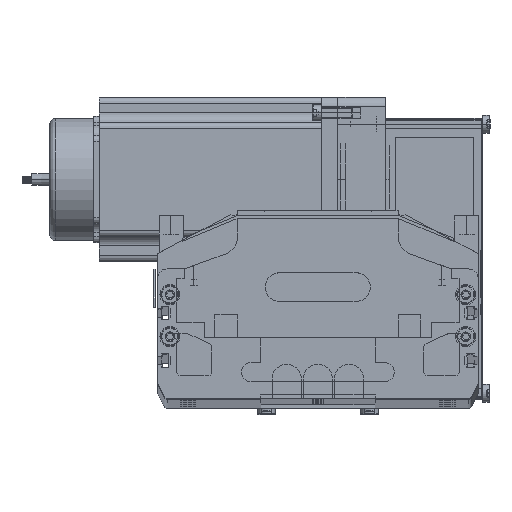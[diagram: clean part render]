
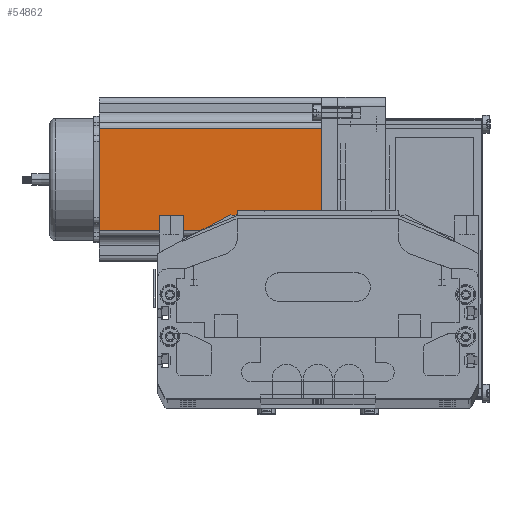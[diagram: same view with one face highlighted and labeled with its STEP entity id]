
A CAD part, top view. The second image highlights one B-rep face of the part: STEP entity #54862.
In plain terms, the highlighted planar face has unit normal (0, 0, 1) as drawn and (0, -1, 0) by its records, which use the part's own axes.
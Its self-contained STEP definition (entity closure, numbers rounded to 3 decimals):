
#16952 = DIRECTION ( 'NONE',  ( 0., 0., -1. ) ) ;
#16953 = VECTOR ( 'NONE', #16952, 1000. ) ;
#16958 = DIRECTION ( 'NONE',  ( 1., 0., 0. ) ) ;
#16964 = LINE ( 'NONE', #16970, #17001 ) ;
#16966 = DIRECTION ( 'NONE',  ( 1., 0., 0. ) ) ;
#16967 = VECTOR ( 'NONE', #16966, 1000. ) ;
#16968 = CARTESIAN_POINT ( 'NONE',  ( 0., 0., 0. ) ) ;
#16970 = CARTESIAN_POINT ( 'NONE',  ( 0., 0., 116.5 ) ) ;
#16971 = LINE ( 'NONE', #17004, #16953 ) ;
#16975 = DIRECTION ( 'NONE',  ( 0., 0., 1. ) ) ;
#16977 = VECTOR ( 'NONE', #16975, 1000. ) ;
#16979 = CARTESIAN_POINT ( 'NONE',  ( 69.74, 0., 116.5 ) ) ;
#16981 = LINE ( 'NONE', #16968, #16967 ) ;
#16988 = DIRECTION ( 'NONE',  ( 0., 0., 1. ) ) ;
#16990 = DIRECTION ( 'NONE',  ( 0., 1., 0. ) ) ;
#16992 = CARTESIAN_POINT ( 'NONE',  ( 0., 0., 116.5 ) ) ;
#16993 = AXIS2_PLACEMENT_3D ( 'NONE', #16992, #16990, #16988 ) ;
#16995 = LINE ( 'NONE', #16979, #16977 ) ;
#16999 = PLANE ( 'NONE',  #16993 ) ;
#17001 = VECTOR ( 'NONE', #16958, 1000. ) ;
#17002 = FACE_OUTER_BOUND ( 'NONE', #54896, .T. ) ;
#17004 = CARTESIAN_POINT ( 'NONE',  ( 16.16, 0., 116.5 ) ) ;
#17031 = CARTESIAN_POINT ( 'NONE',  ( 16.16, 0., 0. ) ) ;
#17033 = CARTESIAN_POINT ( 'NONE',  ( 69.74, 0., 116.5 ) ) ;
#17114 = CARTESIAN_POINT ( 'NONE',  ( 16.16, 0., 116.5 ) ) ;
#17366 = CARTESIAN_POINT ( 'NONE',  ( 69.74, 0., 0. ) ) ;
#54859 = ORIENTED_EDGE ( 'NONE', *, *, #54873, .T. ) ;
#54862 = ADVANCED_FACE ( 'NONE', ( #17002 ), #16999, .F. ) ;
#54865 = ORIENTED_EDGE ( 'NONE', *, *, #54867, .T. ) ;
#54866 = EDGE_CURVE ( 'NONE', #55016, #54889, #16995, .T. ) ;
#54867 = EDGE_CURVE ( 'NONE', #54892, #55016, #16981, .T. ) ;
#54869 = ORIENTED_EDGE ( 'NONE', *, *, #54866, .T. ) ;
#54870 = EDGE_CURVE ( 'NONE', #54940, #54889, #16964, .T. ) ;
#54872 = ORIENTED_EDGE ( 'NONE', *, *, #54870, .F. ) ;
#54873 = EDGE_CURVE ( 'NONE', #54940, #54892, #16971, .T. ) ;
#54889 = VERTEX_POINT ( 'NONE', #17033 ) ;
#54892 = VERTEX_POINT ( 'NONE', #17031 ) ;
#54896 = EDGE_LOOP ( 'NONE', ( #54865, #54869, #54872, #54859 ) ) ;
#54940 = VERTEX_POINT ( 'NONE', #17114 ) ;
#55016 = VERTEX_POINT ( 'NONE', #17366 ) ;
